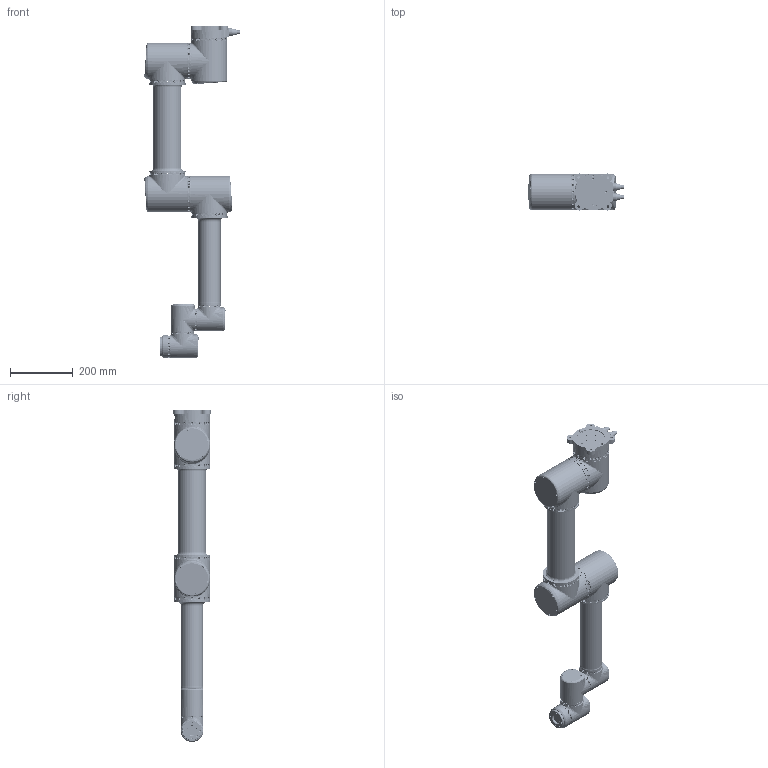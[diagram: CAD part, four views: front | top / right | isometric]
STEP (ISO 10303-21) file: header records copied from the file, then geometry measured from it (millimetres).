
FILE_DESCRIPTION (( 'STEP AP203' ), '1' );
FILE_NAME ('eRobot5_MA.STEP', '2022-06-02T03:18:45', ( '' ), ( '' ), 'SwSTEP 2.0', 'SolidWorks 2016', '' );
FILE_SCHEMA (( 'CONFIG_CONTROL_DESIGN' ));
Length unit declared in the file: millimetre
Products named in the file (32): hexagon socket head cap screws gb_GB_FASTENER_SCREWS_HSHCS M3X5-N; 瑤脣; ZCT0012-70T-005-0 T倰Pcb綴裔; 瑤脣Pcb - 6謂; 3-091-001 菁釱鍼踢; T倰70俋褲20210204; eDriver-Rob14俋楷唳; XT30U-M 3D DRAWING; 2-130-004 三轴转接1; 2-091-001 5kg菁釱; hexagon socket button head screws gb_GB_SOCKET_TYPE7 M3X6-N; 瑤脣Pcb - 6諳; M3-7-6肣蹟翐; 9-90-213 Pcb假蚾釱; 2-091-002 5kg媼壽誹蟀裝; 3-130-001 徹盄鍼踢; 2-091-005 5kg三关节连杆; 瑤脣鼠芛; 110T倰郋粣-潠趙; ZCT0012-70T-003-0 T倰70綴裔; XT30U-F 3D DRAWING; eRob70T; eRobot5_MA; 2-054-006 3kg藺傷楊擘; eRob110T; T倰80Pcb綴裔俋楷唳; 2-130-003 三轴转接2; T倰110俋褲20201125; 2-110T-002 T倰110綴裔; ZCT0012-70T-002-0 T倰70郋粣潠趙; T倰110俋褲埻紫; 63V 100米F
Assembly tree (71 placements, depth 3):
  eRobot5_MA
    eRob70T  x3
      eDriver-Rob14俋楷唳
      T倰70俋褲20210204
      ZCT0012-70T-002-0 T倰70郋粣潠趙
      ZCT0012-70T-003-0 T倰70綴裔
      ZCT0012-70T-005-0 T倰Pcb綴裔
    2-130-003 三轴转接2
    2-130-004 三轴转接1
    T倰110俋褲埻紫
    2-110T-002 T倰110綴裔
    2-091-005 5kg三关节连杆
    2-091-001 5kg菁釱
    2-091-002 5kg媼壽誹蟀裝
    3-130-001 徹盄鍼踢  x4
    瑤脣  x2
    瑤脣鼠芛  x2
    2-054-006 3kg藺傷楊擘
    3-091-001 菁釱鍼踢
    eRob110T  x3
      T倰110俋褲20201125
      110T倰郋粣-潠趙
      2-110T-002 T倰110綴裔
      eDriver-Rob14俋楷唳
      T倰80Pcb綴裔俋楷唳
      M3-7-6肣蹟翐
      hexagon socket head cap screws gb_GB_FASTENER_SCREWS_HSHCS M3X5-N
    瑤脣Pcb - 6謂
      瑤脣Pcb - 6諳
      XT30U-M 3D DRAWING  x9
      XT30U-F 3D DRAWING  x9
      63V 100米F  x5
      hexagon socket button head screws gb_GB_SOCKET_TYPE7 M3X6-N  x4
      9-90-213 Pcb假蚾釱
Bounding box: 304.47 x 118.31 x 1060.8 mm (x, y, z)
Volume: 6810440.9 mm3; surface area: 1651810.7 mm2
Topology: 127 solids, 259 shells, 27578 faces, 72072 edges, 46040 vertices
Faces by surface type: plane 15782, cylinder 7334, bspline 2278, cone 1343, torus 488, sphere 353
Entity records: 302111 total; most frequent: CARTESIAN_POINT 108473, ORIENTED_EDGE 39884, DIRECTION 37709, EDGE_CURVE 19942, AXIS2_PLACEMENT_3D 12889, VERTEX_POINT 12823, VECTOR 11931, LINE 11931
